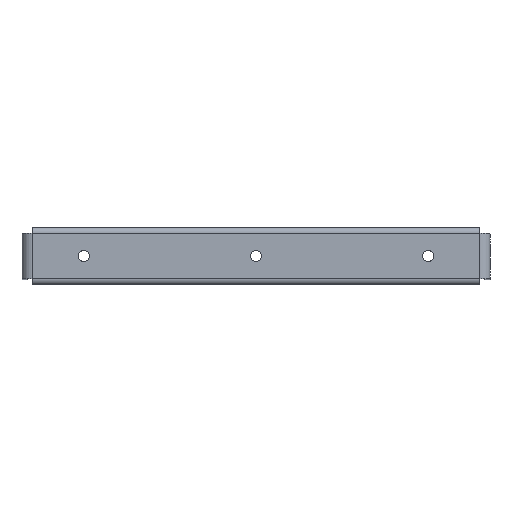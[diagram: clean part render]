
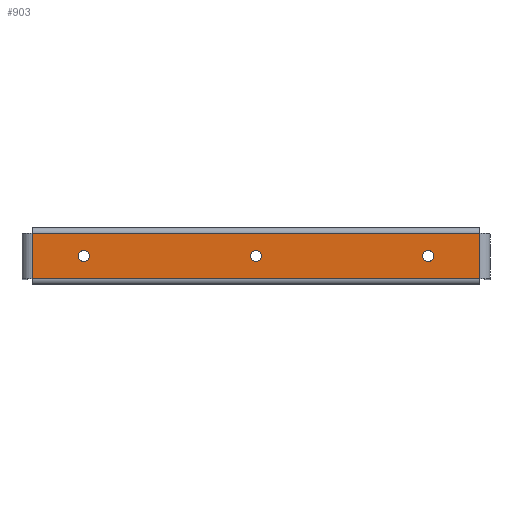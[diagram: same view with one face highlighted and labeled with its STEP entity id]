
A CAD part, top view. The second image highlights one B-rep face of the part: STEP entity #903.
In plain terms, the highlighted planar face has unit normal (0, 0, 1).
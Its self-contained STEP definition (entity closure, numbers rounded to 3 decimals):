
#26=FACE_BOUND('',#175,.T.);
#27=FACE_BOUND('',#176,.T.);
#28=FACE_BOUND('',#177,.T.);
#60=PLANE('',#1019);
#111=FACE_OUTER_BOUND('',#174,.T.);
#174=EDGE_LOOP('',(#767,#768,#769,#770));
#175=EDGE_LOOP('',(#771));
#176=EDGE_LOOP('',(#772));
#177=EDGE_LOOP('',(#773));
#190=CIRCLE('',#955,5.5);
#192=CIRCLE('',#958,5.5);
#194=CIRCLE('',#961,5.5);
#225=LINE('',#1290,#298);
#241=LINE('',#1331,#314);
#289=LINE('',#1487,#362);
#294=LINE('',#1502,#367);
#298=VECTOR('',#1028,10.);
#314=VECTOR('',#1070,10.);
#362=VECTOR('',#1234,10.);
#367=VECTOR('',#1259,10.);
#372=VERTEX_POINT('',#1287);
#373=VERTEX_POINT('',#1289);
#384=VERTEX_POINT('',#1328);
#385=VERTEX_POINT('',#1330);
#394=VERTEX_POINT('',#1366);
#396=VERTEX_POINT('',#1372);
#398=VERTEX_POINT('',#1378);
#438=EDGE_CURVE('',#373,#372,#225,.T.);
#458=EDGE_CURVE('',#385,#384,#241,.T.);
#476=EDGE_CURVE('',#394,#394,#190,.T.);
#479=EDGE_CURVE('',#396,#396,#192,.T.);
#482=EDGE_CURVE('',#398,#398,#194,.T.);
#536=EDGE_CURVE('',#384,#373,#289,.T.);
#545=EDGE_CURVE('',#372,#385,#294,.T.);
#767=ORIENTED_EDGE('',*,*,#536,.T.);
#768=ORIENTED_EDGE('',*,*,#438,.T.);
#769=ORIENTED_EDGE('',*,*,#545,.T.);
#770=ORIENTED_EDGE('',*,*,#458,.T.);
#771=ORIENTED_EDGE('',*,*,#476,.T.);
#772=ORIENTED_EDGE('',*,*,#479,.T.);
#773=ORIENTED_EDGE('',*,*,#482,.T.);
#903=ADVANCED_FACE('',(#111,#26,#27,#28),#60,.T.);
#955=AXIS2_PLACEMENT_3D('',#1367,#1109,#1110);
#958=AXIS2_PLACEMENT_3D('',#1373,#1116,#1117);
#961=AXIS2_PLACEMENT_3D('',#1379,#1123,#1124);
#1019=AXIS2_PLACEMENT_3D('',#1513,#1278,#1279);
#1028=DIRECTION('',(-1.,0.,0.));
#1070=DIRECTION('',(1.,0.,0.));
#1109=DIRECTION('center_axis',(0.,0.,-1.));
#1110=DIRECTION('ref_axis',(1.,0.,0.));
#1116=DIRECTION('center_axis',(0.,0.,-1.));
#1117=DIRECTION('ref_axis',(1.,0.,0.));
#1123=DIRECTION('center_axis',(0.,0.,-1.));
#1124=DIRECTION('ref_axis',(1.,0.,0.));
#1234=DIRECTION('',(0.,1.,0.));
#1259=DIRECTION('',(0.,-1.,0.));
#1278=DIRECTION('center_axis',(0.,0.,1.));
#1279=DIRECTION('ref_axis',(1.,0.,0.));
#1287=CARTESIAN_POINT('',(-217.,22.,5.));
#1289=CARTESIAN_POINT('',(217.,22.,5.));
#1290=CARTESIAN_POINT('',(227.,22.,5.));
#1328=CARTESIAN_POINT('',(217.,-22.,5.));
#1330=CARTESIAN_POINT('',(-217.,-22.,5.));
#1331=CARTESIAN_POINT('',(-227.,-22.,5.));
#1366=CARTESIAN_POINT('',(-5.5,0.,5.));
#1367=CARTESIAN_POINT('Origin',(0.,0.,5.));
#1372=CARTESIAN_POINT('',(161.5,0.,5.));
#1373=CARTESIAN_POINT('Origin',(167.,0.,5.));
#1378=CARTESIAN_POINT('',(-172.5,0.,5.));
#1379=CARTESIAN_POINT('Origin',(-167.,0.,5.));
#1487=CARTESIAN_POINT('',(217.,-11.,5.));
#1502=CARTESIAN_POINT('',(-217.,11.,5.));
#1513=CARTESIAN_POINT('Origin',(0.,0.,5.));
